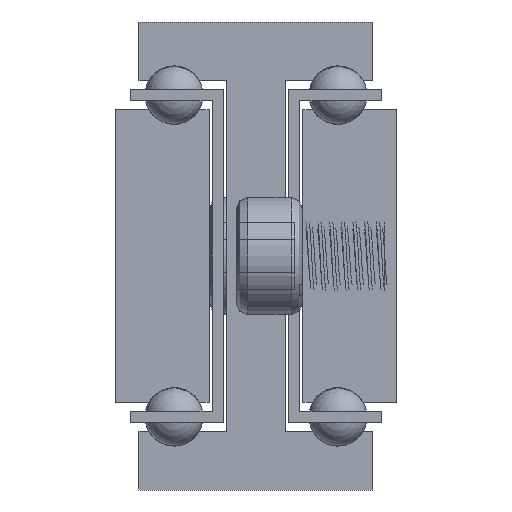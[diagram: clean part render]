
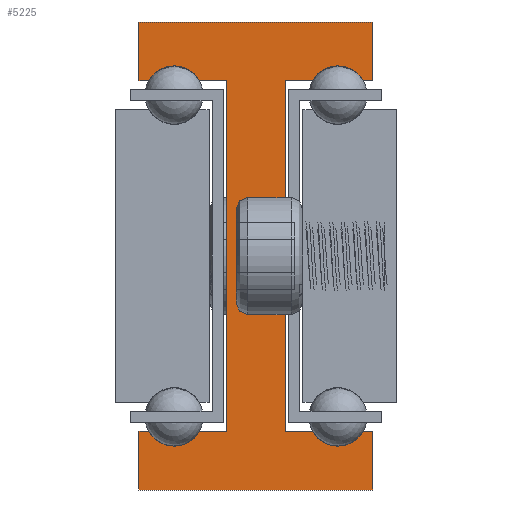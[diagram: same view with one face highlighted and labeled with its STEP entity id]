
A CAD part, front view. The second image highlights one B-rep face of the part: STEP entity #5225.
In plain terms, the highlighted planar face has unit normal (0, -1, 0).
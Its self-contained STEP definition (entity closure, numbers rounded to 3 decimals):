
#335=CIRCLE('',#5583,2.5);
#337=CIRCLE('',#5589,2.5);
#339=CIRCLE('',#5597,2.5);
#341=CIRCLE('',#5603,2.5);
#561=FACE_OUTER_BOUND('',#881,.T.);
#881=EDGE_LOOP('',(#3702,#3703,#3704,#3705,#3706,#3707,#3708,#3709,#3710,
#3711,#3712,#3713,#3714,#3715,#3716,#3717,#3718,#3719,#3720,#3721));
#1326=LINE('',#7512,#1852);
#1329=LINE('',#7518,#1855);
#1332=LINE('',#7524,#1858);
#1336=LINE('',#7536,#1862);
#1339=LINE('',#7542,#1865);
#1342=LINE('',#7548,#1868);
#1346=LINE('',#7560,#1872);
#1349=LINE('',#7566,#1875);
#1352=LINE('',#7572,#1878);
#1355=LINE('',#7578,#1881);
#1358=LINE('',#7584,#1884);
#1362=LINE('',#7596,#1888);
#1365=LINE('',#7602,#1891);
#1368=LINE('',#7608,#1894);
#1372=LINE('',#7620,#1898);
#1375=LINE('',#7624,#1901);
#1852=VECTOR('',#6050,1.);
#1855=VECTOR('',#6055,1.);
#1858=VECTOR('',#6060,1.);
#1862=VECTOR('',#6072,1.);
#1865=VECTOR('',#6077,1.);
#1868=VECTOR('',#6082,1.);
#1872=VECTOR('',#6094,1.);
#1875=VECTOR('',#6099,1.);
#1878=VECTOR('',#6104,1.);
#1881=VECTOR('',#6109,1.);
#1884=VECTOR('',#6114,1.);
#1888=VECTOR('',#6126,1.);
#1891=VECTOR('',#6131,1.);
#1894=VECTOR('',#6136,1.);
#1898=VECTOR('',#6148,1.);
#1901=VECTOR('',#6153,1.);
#2378=VERTEX_POINT('',#7509);
#2379=VERTEX_POINT('',#7511);
#2381=VERTEX_POINT('',#7517);
#2383=VERTEX_POINT('',#7523);
#2385=VERTEX_POINT('',#7529);
#2387=VERTEX_POINT('',#7535);
#2389=VERTEX_POINT('',#7541);
#2391=VERTEX_POINT('',#7547);
#2393=VERTEX_POINT('',#7553);
#2395=VERTEX_POINT('',#7559);
#2397=VERTEX_POINT('',#7565);
#2399=VERTEX_POINT('',#7571);
#2401=VERTEX_POINT('',#7577);
#2403=VERTEX_POINT('',#7583);
#2405=VERTEX_POINT('',#7589);
#2407=VERTEX_POINT('',#7595);
#2409=VERTEX_POINT('',#7601);
#2411=VERTEX_POINT('',#7607);
#2413=VERTEX_POINT('',#7613);
#2415=VERTEX_POINT('',#7619);
#2912=EDGE_CURVE('',#2379,#2378,#1326,.T.);
#2915=EDGE_CURVE('',#2381,#2379,#1329,.T.);
#2918=EDGE_CURVE('',#2383,#2381,#1332,.T.);
#2921=EDGE_CURVE('',#2385,#2383,#335,.T.);
#2924=EDGE_CURVE('',#2387,#2385,#1336,.T.);
#2927=EDGE_CURVE('',#2389,#2387,#1339,.T.);
#2930=EDGE_CURVE('',#2391,#2389,#1342,.T.);
#2933=EDGE_CURVE('',#2393,#2391,#337,.T.);
#2936=EDGE_CURVE('',#2395,#2393,#1346,.T.);
#2939=EDGE_CURVE('',#2397,#2395,#1349,.T.);
#2942=EDGE_CURVE('',#2399,#2397,#1352,.T.);
#2945=EDGE_CURVE('',#2401,#2399,#1355,.T.);
#2948=EDGE_CURVE('',#2403,#2401,#1358,.T.);
#2951=EDGE_CURVE('',#2405,#2403,#339,.T.);
#2954=EDGE_CURVE('',#2407,#2405,#1362,.T.);
#2957=EDGE_CURVE('',#2409,#2407,#1365,.T.);
#2960=EDGE_CURVE('',#2411,#2409,#1368,.T.);
#2963=EDGE_CURVE('',#2413,#2411,#341,.T.);
#2966=EDGE_CURVE('',#2415,#2413,#1372,.T.);
#2969=EDGE_CURVE('',#2378,#2415,#1375,.T.);
#3702=ORIENTED_EDGE('',*,*,#2969,.T.);
#3703=ORIENTED_EDGE('',*,*,#2966,.T.);
#3704=ORIENTED_EDGE('',*,*,#2963,.T.);
#3705=ORIENTED_EDGE('',*,*,#2960,.T.);
#3706=ORIENTED_EDGE('',*,*,#2957,.T.);
#3707=ORIENTED_EDGE('',*,*,#2954,.T.);
#3708=ORIENTED_EDGE('',*,*,#2951,.T.);
#3709=ORIENTED_EDGE('',*,*,#2948,.T.);
#3710=ORIENTED_EDGE('',*,*,#2945,.T.);
#3711=ORIENTED_EDGE('',*,*,#2942,.T.);
#3712=ORIENTED_EDGE('',*,*,#2939,.T.);
#3713=ORIENTED_EDGE('',*,*,#2936,.T.);
#3714=ORIENTED_EDGE('',*,*,#2933,.T.);
#3715=ORIENTED_EDGE('',*,*,#2930,.T.);
#3716=ORIENTED_EDGE('',*,*,#2927,.T.);
#3717=ORIENTED_EDGE('',*,*,#2924,.T.);
#3718=ORIENTED_EDGE('',*,*,#2921,.T.);
#3719=ORIENTED_EDGE('',*,*,#2918,.T.);
#3720=ORIENTED_EDGE('',*,*,#2915,.T.);
#3721=ORIENTED_EDGE('',*,*,#2912,.T.);
#5003=PLANE('',#5607);
#5225=ADVANCED_FACE('',(#561),#5003,.T.);
#5583=AXIS2_PLACEMENT_3D('',#7530,#6066,#6067);
#5589=AXIS2_PLACEMENT_3D('',#7554,#6088,#6089);
#5597=AXIS2_PLACEMENT_3D('',#7590,#6120,#6121);
#5603=AXIS2_PLACEMENT_3D('',#7614,#6142,#6143);
#5607=AXIS2_PLACEMENT_3D('',#7626,#6156,#6157);
#6050=DIRECTION('',(-1.,0.,0.));
#6055=DIRECTION('',(0.,0.,1.));
#6060=DIRECTION('',(1.,0.,0.));
#6066=DIRECTION('center_axis',(0.,1.,0.));
#6067=DIRECTION('ref_axis',(0.866,0.,0.5));
#6072=DIRECTION('',(1.,0.,0.));
#6077=DIRECTION('',(0.,0.,1.));
#6082=DIRECTION('',(-1.,0.,0.));
#6088=DIRECTION('center_axis',(0.,1.,0.));
#6089=DIRECTION('ref_axis',(-0.866,0.,-0.5));
#6094=DIRECTION('',(-1.,0.,0.));
#6099=DIRECTION('',(0.,0.,1.));
#6104=DIRECTION('',(1.,0.,0.));
#6109=DIRECTION('',(0.,0.,-1.));
#6114=DIRECTION('',(-1.,0.,0.));
#6120=DIRECTION('center_axis',(0.,1.,0.));
#6121=DIRECTION('ref_axis',(-0.866,0.,-0.5));
#6126=DIRECTION('',(-1.,0.,0.));
#6131=DIRECTION('',(0.,0.,-1.));
#6136=DIRECTION('',(1.,0.,0.));
#6142=DIRECTION('center_axis',(0.,1.,0.));
#6143=DIRECTION('ref_axis',(0.866,0.,0.5));
#6148=DIRECTION('',(1.,0.,0.));
#6153=DIRECTION('',(0.,0.,-1.));
#6156=DIRECTION('center_axis',(0.,-1.,0.));
#6157=DIRECTION('ref_axis',(1.,0.,0.));
#7509=CARTESIAN_POINT('',(3131.921,1157.483,295.));
#7511=CARTESIAN_POINT('',(3151.921,1157.483,295.));
#7512=CARTESIAN_POINT('',(3131.921,1157.483,295.));
#7517=CARTESIAN_POINT('',(3151.921,1157.483,290.));
#7518=CARTESIAN_POINT('',(3151.921,1157.483,295.));
#7523=CARTESIAN_POINT('',(3151.086,1157.483,290.));
#7524=CARTESIAN_POINT('',(3151.921,1157.483,290.));
#7529=CARTESIAN_POINT('',(3146.756,1157.483,290.));
#7530=CARTESIAN_POINT('Origin',(3148.921,1157.483,288.75));
#7535=CARTESIAN_POINT('',(3144.421,1157.483,290.));
#7536=CARTESIAN_POINT('',(3146.756,1157.483,290.));
#7541=CARTESIAN_POINT('',(3144.421,1157.483,260.));
#7542=CARTESIAN_POINT('',(3144.421,1157.483,290.));
#7547=CARTESIAN_POINT('',(3146.756,1157.483,260.));
#7548=CARTESIAN_POINT('',(3144.421,1157.483,260.));
#7553=CARTESIAN_POINT('',(3151.086,1157.483,260.));
#7554=CARTESIAN_POINT('Origin',(3148.921,1157.483,261.25));
#7559=CARTESIAN_POINT('',(3151.921,1157.483,260.));
#7560=CARTESIAN_POINT('',(3151.086,1157.483,260.));
#7565=CARTESIAN_POINT('',(3151.921,1157.483,255.));
#7566=CARTESIAN_POINT('',(3151.921,1157.483,260.));
#7571=CARTESIAN_POINT('',(3131.921,1157.483,255.));
#7572=CARTESIAN_POINT('',(3151.921,1157.483,255.));
#7577=CARTESIAN_POINT('',(3131.921,1157.483,260.));
#7578=CARTESIAN_POINT('',(3131.921,1157.483,255.));
#7583=CARTESIAN_POINT('',(3132.756,1157.483,260.));
#7584=CARTESIAN_POINT('',(3131.921,1157.483,260.));
#7589=CARTESIAN_POINT('',(3137.086,1157.483,260.));
#7590=CARTESIAN_POINT('Origin',(3134.921,1157.483,261.25));
#7595=CARTESIAN_POINT('',(3139.421,1157.483,260.));
#7596=CARTESIAN_POINT('',(3137.086,1157.483,260.));
#7601=CARTESIAN_POINT('',(3139.421,1157.483,290.));
#7602=CARTESIAN_POINT('',(3139.421,1157.483,260.));
#7607=CARTESIAN_POINT('',(3137.086,1157.483,290.));
#7608=CARTESIAN_POINT('',(3139.421,1157.483,290.));
#7613=CARTESIAN_POINT('',(3132.756,1157.483,290.));
#7614=CARTESIAN_POINT('Origin',(3134.921,1157.483,288.75));
#7619=CARTESIAN_POINT('',(3131.921,1157.483,290.));
#7620=CARTESIAN_POINT('',(3132.756,1157.483,290.));
#7624=CARTESIAN_POINT('',(3131.921,1157.483,290.));
#7626=CARTESIAN_POINT('Origin',(3141.921,1157.483,275.));
